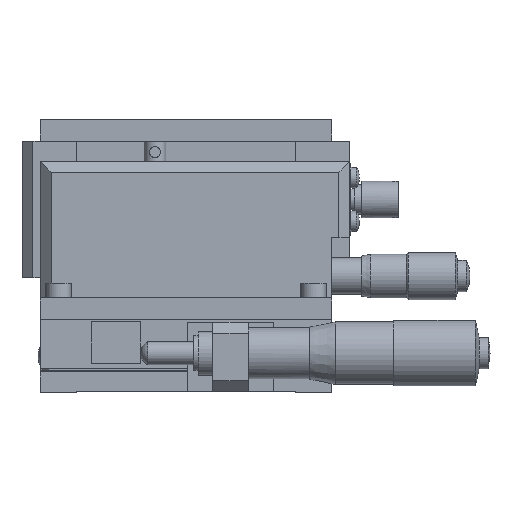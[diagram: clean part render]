
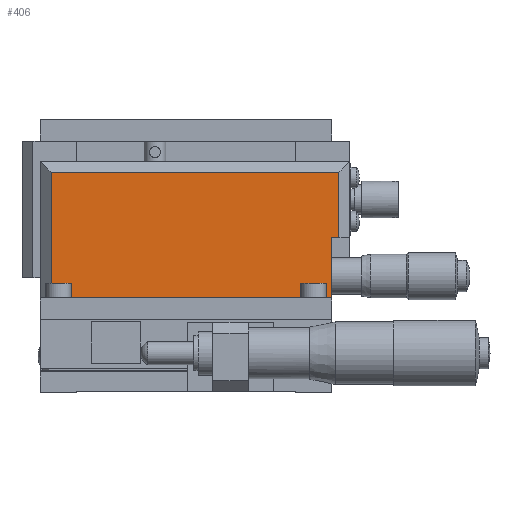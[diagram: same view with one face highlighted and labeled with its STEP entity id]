
A CAD part, left-side view. The second image highlights one B-rep face of the part: STEP entity #406.
In plain terms, the highlighted planar face has unit normal (-1, 0, 0).
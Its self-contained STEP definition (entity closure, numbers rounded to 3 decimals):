
#406 = ADVANCED_FACE( '', ( #883 ), #884, .T. );
#883 = FACE_OUTER_BOUND( '', #1967, .T. );
#884 = PLANE( '', #1968 );
#1967 = EDGE_LOOP( '', ( #3288, #3289, #3290, #3291, #3292, #3293 ) );
#1968 = AXIS2_PLACEMENT_3D( '', #3294, #3295, #3296 );
#3288 = ORIENTED_EDGE( '', *, *, #6010, .T. );
#3289 = ORIENTED_EDGE( '', *, *, #6001, .T. );
#3290 = ORIENTED_EDGE( '', *, *, #6005, .T. );
#3291 = ORIENTED_EDGE( '', *, *, #6007, .T. );
#3292 = ORIENTED_EDGE( '', *, *, #5909, .T. );
#3293 = ORIENTED_EDGE( '', *, *, #6038, .T. );
#3294 = CARTESIAN_POINT( '', ( -30., -2.5, 63.5 ) );
#3295 = DIRECTION( '', ( -1., 0., 0. ) );
#3296 = DIRECTION( '', ( 0., 0., -1. ) );
#5909 = EDGE_CURVE( '', #6776, #6777, #6778, .T. );
#6001 = EDGE_CURVE( '', #6942, #6940, #6943, .T. );
#6005 = EDGE_CURVE( '', #6940, #6948, #6950, .T. );
#6007 = EDGE_CURVE( '', #6948, #6776, #6952, .T. );
#6010 = EDGE_CURVE( '', #6956, #6942, #6957, .T. );
#6038 = EDGE_CURVE( '', #6777, #6956, #7002, .T. );
#6776 = VERTEX_POINT( '', #8233 );
#6777 = VERTEX_POINT( '', #8234 );
#6778 = LINE( '', #8235, #8236 );
#6940 = VERTEX_POINT( '', #8493 );
#6942 = VERTEX_POINT( '', #8496 );
#6943 = LINE( '', #8497, #8498 );
#6948 = VERTEX_POINT( '', #8505 );
#6950 = LINE( '', #8508, #8509 );
#6952 = LINE( '', #8512, #8513 );
#6956 = VERTEX_POINT( '', #8519 );
#6957 = LINE( '', #8520, #8521 );
#7002 = LINE( '', #8593, #8594 );
#8233 = CARTESIAN_POINT( '', ( -30., 37., 26. ) );
#8234 = CARTESIAN_POINT( '', ( -30., -40., 26. ) );
#8235 = CARTESIAN_POINT( '', ( -30., -2.5, 26. ) );
#8236 = VECTOR( '', #10663, 1000. );
#8493 = CARTESIAN_POINT( '', ( -30., -42., 60.5 ) );
#8496 = CARTESIAN_POINT( '', ( -30., -42., 42.5 ) );
#8497 = CARTESIAN_POINT( '', ( -30., -42., 63.5 ) );
#8498 = VECTOR( '', #10810, 1000. );
#8505 = CARTESIAN_POINT( '', ( -30., 37., 60.5 ) );
#8508 = CARTESIAN_POINT( '', ( -30., -2.5, 60.5 ) );
#8509 = VECTOR( '', #10814, 1000. );
#8512 = CARTESIAN_POINT( '', ( -30., 37., 63.5 ) );
#8513 = VECTOR( '', #10816, 1000. );
#8519 = CARTESIAN_POINT( '', ( -30., -40., 42.5 ) );
#8520 = CARTESIAN_POINT( '', ( -30., -2.5, 42.5 ) );
#8521 = VECTOR( '', #10819, 1000. );
#8593 = CARTESIAN_POINT( '', ( -30., -40., 63.5 ) );
#8594 = VECTOR( '', #10847, 1000. );
#10663 = DIRECTION( '', ( 0., -1., 0. ) );
#10810 = DIRECTION( '', ( 0., 0., 1. ) );
#10814 = DIRECTION( '', ( 0., 1., 0. ) );
#10816 = DIRECTION( '', ( 0., 0., -1. ) );
#10819 = DIRECTION( '', ( 0., -1., 0. ) );
#10847 = DIRECTION( '', ( 0., 0., 1. ) );
